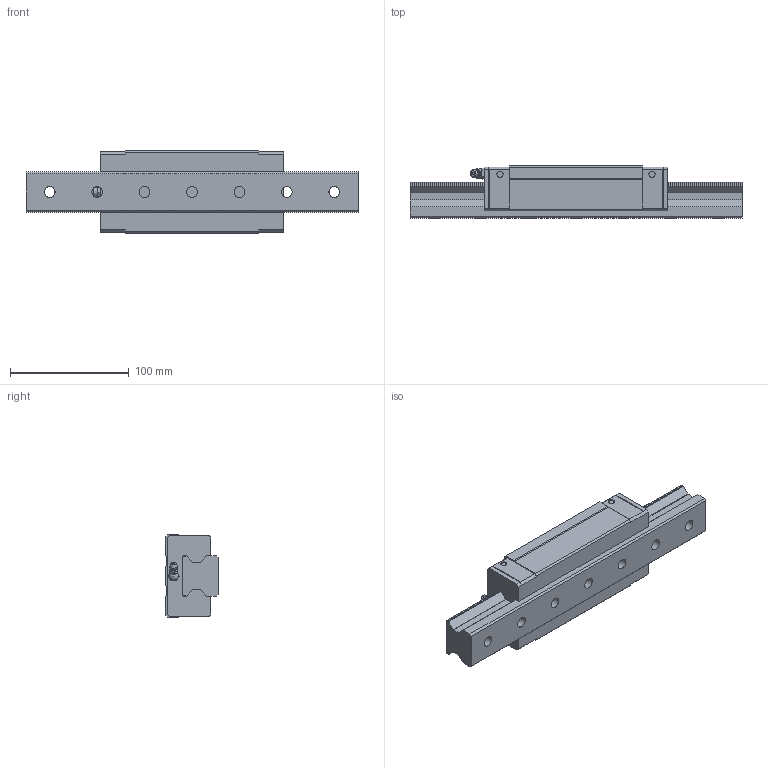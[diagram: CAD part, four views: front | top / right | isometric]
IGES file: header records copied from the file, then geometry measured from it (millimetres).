
Start section: Data from Parasolid IGES Translator 26.0.171, Copyright(c) 2006 Siemens PLM Software. All Rights Reserved.
Global section: file name: SRN35LR1SS-280L_G20_0_B-M6F_62-5_0_0_0_1.igs; native system: By Siemens PLM Incorporated; preprocessor: XPlus GENERIC/IGES 26.0.171; author: Noname; organization: Noname; date: 20240523.105756; units: millimetre
Bounding box: 280 x 44 x 70 mm (x, y, z)
Surface area: 93498.4 mm2 (no closed solid volume)
Topology: 0 solids, 0 shells, 198 faces, 1038 edges, 961 vertices
Faces by surface type: extrusion 125, revolution 73
